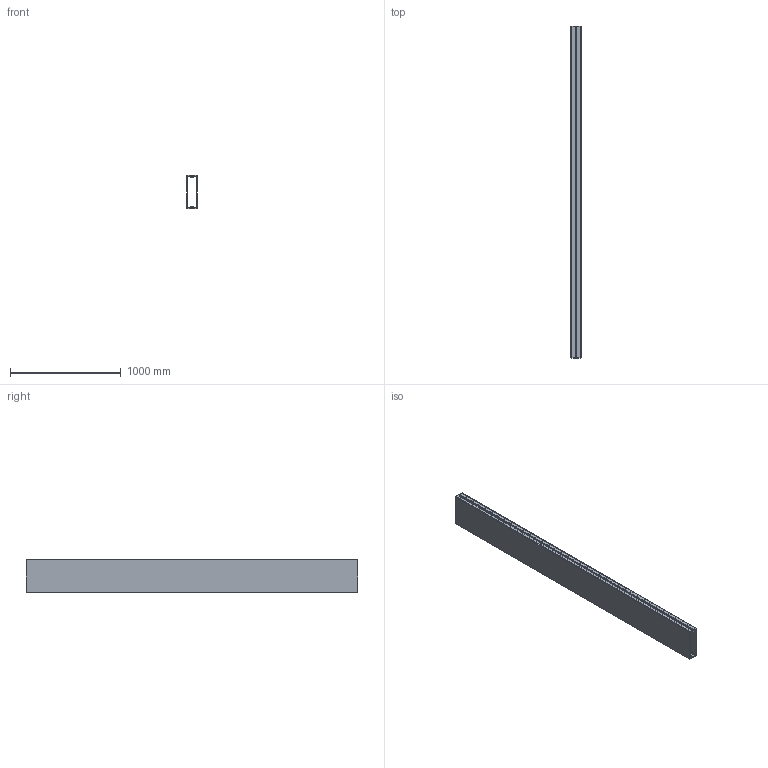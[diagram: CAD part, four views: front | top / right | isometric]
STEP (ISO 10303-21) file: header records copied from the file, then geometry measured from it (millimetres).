
FILE_DESCRIPTION (( 'STEP AP203' ), '1' );
FILE_NAME ('FBCB 3A300_Kette oben und unten_44188.STEP', '2026-05-28T11:01:14', ( '' ), ( '' ), 'SwSTEP 2.0', 'SolidWorks 2024', '' );
FILE_SCHEMA (( 'CONFIG_CONTROL_DESIGN' ));
Length unit declared in the file: millimetre
Products named in the file (1): FBCB 3A300_Kette oben und unten_44188
Bounding box: 91 x 3000 x 300 mm (x, y, z)
Volume: 16196119.9 mm3; surface area: 4854715 mm2
Topology: 1 solids, 1 shells, 117 faces, 345 edges, 230 vertices
Faces by surface type: plane 112, cylinder 5
Entity records: 3910 total; most frequent: CARTESIAN_POINT 693, ORIENTED_EDGE 690, DIRECTION 591, EDGE_CURVE 345, VECTOR 335, LINE 335, VERTEX_POINT 230, AXIS2_PLACEMENT_3D 128
